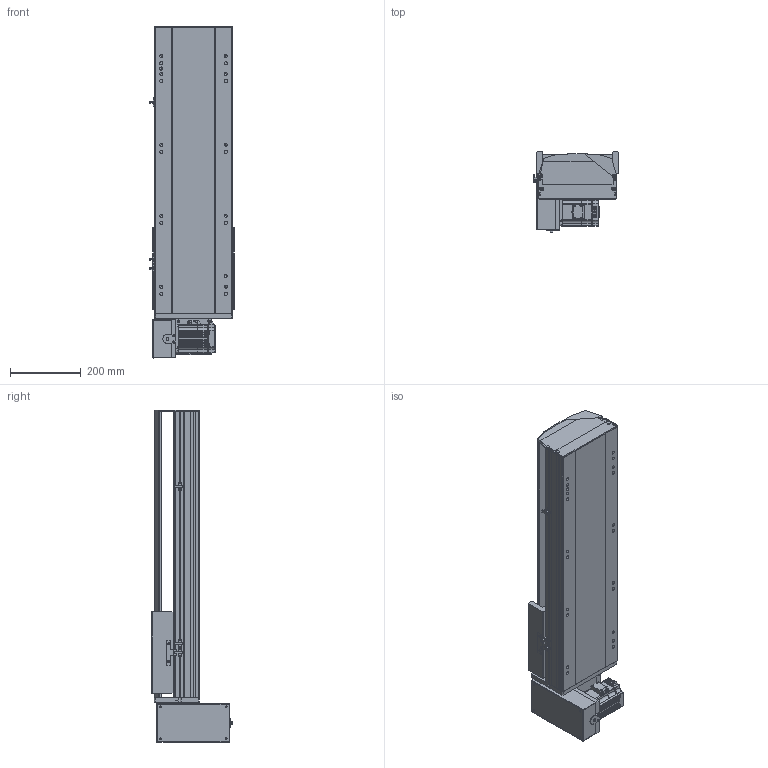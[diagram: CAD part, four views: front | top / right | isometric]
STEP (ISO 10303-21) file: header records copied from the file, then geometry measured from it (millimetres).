
FILE_DESCRIPTION (( 'STEP AP214' ), '1' );
FILE_NAME ('TPT22M-L40-450-RD-T75-C4.STEP', '2023-04-12T02:07:05', ( '' ), ( '' ), 'SwSTEP 2.0', 'SolidWorks 2020', '' );
FILE_SCHEMA (( 'AUTOMOTIVE_DESIGN' ));
Length unit declared in the file: millimetre
Products named in the file (9): 葩璃 TPT22-L-001 菁釱MZ-220-01^TPT22M-L40-RD-T75-C4; TPT22M-L40-450-RD-T75-C4; 葩璃 MSMD08PC_P75^TPT22M-L40-RD-T75-C4; 葩璃 TPT22-L-007 々湍釱^TPT22M-L40-RD-T75-C4; 葩璃 TPT22-L-002 奻裔MZ-220-02^TPT22M-L40-RD-T75-C4; 葩璃 pm-t65-672^TPT22M-L40-RD-T75-C4; 葩璃 TPT22-L-005 賑釱MZ-220-03^TPT22M-L40-RD-T75-C4; hexagon head bolts-full thread gb_GB_FASTENER_BOLT_STBAB A M5X16-N; 葩璃 TPT22-L-009 萇儂啣^TPT22M-L40-RD-T75-C4
Assembly tree (10 placements, depth 2):
  TPT22M-L40-450-RD-T75-C4
    葩璃 TPT22-L-001 菁釱MZ-220-01^TPT22M-L40-RD-T75-C4
    葩璃 TPT22-L-002 奻裔MZ-220-02^TPT22M-L40-RD-T75-C4
    葩璃 TPT22-L-005 賑釱MZ-220-03^TPT22M-L40-RD-T75-C4
    葩璃 TPT22-L-007 々湍釱^TPT22M-L40-RD-T75-C4
    葩璃 TPT22-L-009 萇儂啣^TPT22M-L40-RD-T75-C4
    葩璃 pm-t65-672^TPT22M-L40-RD-T75-C4  x3
    葩璃 MSMD08PC_P75^TPT22M-L40-RD-T75-C4
    hexagon head bolts-full thread gb_GB_FASTENER_BOLT_STBAB A M5X16-N
Bounding box: 238.7 x 225.65 x 936 mm (x, y, z)
Volume: 13553221 mm3; surface area: 1592429.1 mm2
Topology: 17 solids, 17 shells, 1727 faces, 4573 edges, 2933 vertices
Faces by surface type: plane 973, cylinder 620, cone 112, bspline 22
Entity records: 49387 total; most frequent: CARTESIAN_POINT 10133, DIRECTION 7920, ORIENTED_EDGE 7706, EDGE_CURVE 3853, AXIS2_PLACEMENT_3D 2691, VECTOR 2538, LINE 2538, VERTEX_POINT 2505
